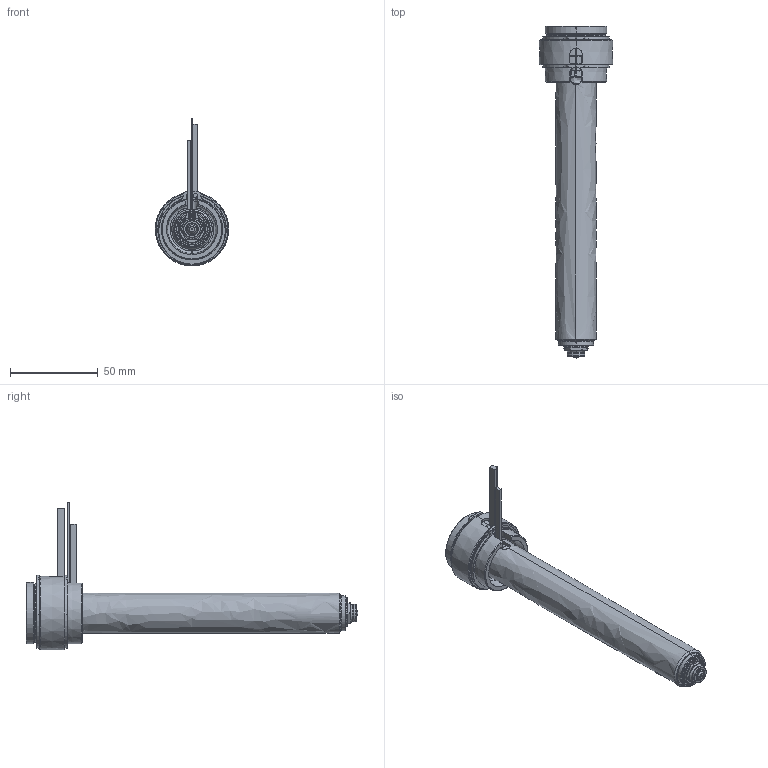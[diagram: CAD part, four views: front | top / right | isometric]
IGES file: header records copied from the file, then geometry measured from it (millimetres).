
Start section: SolidWorks IGES file using analytic representation for surfaces
Global section: file name: C:\Documents and Settings\ws-20\Desktop\TEM\UGER3554-S-A-0 [Øb-0.50  ØC-6.0].IGS; native system: SolidWorks 2012; preprocessor: SolidWorks 2012; author: ws-20; date: 120410.095335; units: millimetre
Bounding box: 42 x 189.4 x 84.4 mm (x, y, z)
Surface area: 43062 mm2 (no closed solid volume)
Topology: 0 solids, 0 shells, 204 faces, 3566 edges, 3566 vertices
Faces by surface type: revolution 130, bspline 74
